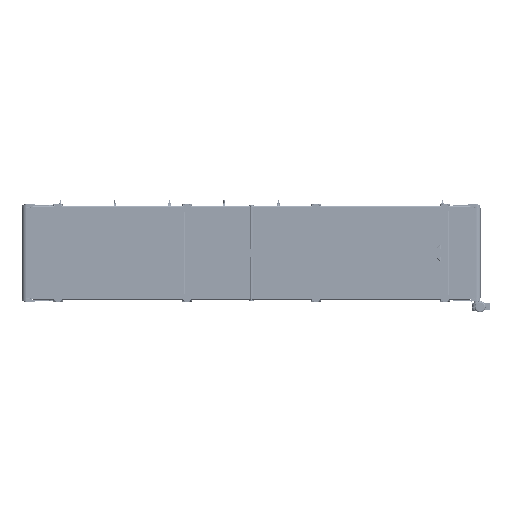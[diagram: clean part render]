
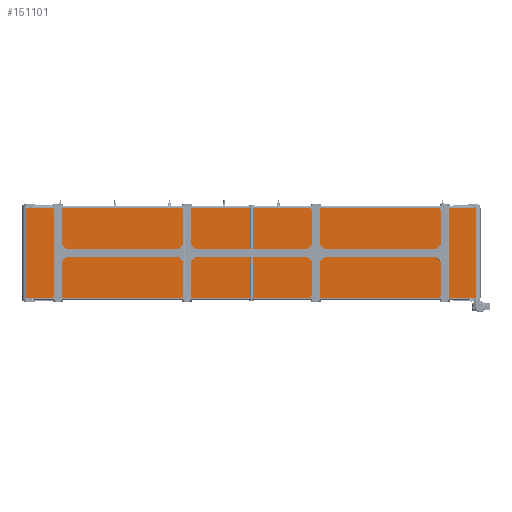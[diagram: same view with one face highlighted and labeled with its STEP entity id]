
A CAD part, front view. The second image highlights one B-rep face of the part: STEP entity #151101.
In plain terms, the highlighted planar face has unit normal (0, -1, 0).
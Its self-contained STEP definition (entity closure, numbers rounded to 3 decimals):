
#11059 = CARTESIAN_POINT ( 'NONE',  ( 2500., -49.5, -500. ) ) ;
#27011 = CARTESIAN_POINT ( 'NONE',  ( -2500., -49.5, 500. ) ) ;
#35018 = LINE ( 'NONE', #292448, #267476 ) ;
#41265 = VECTOR ( 'NONE', #71564, 1000. ) ;
#44678 = VERTEX_POINT ( 'NONE', #64823 ) ;
#51844 = DIRECTION ( 'NONE',  ( 0., 0., 1. ) ) ;
#53388 = FACE_OUTER_BOUND ( 'NONE', #65462, .T. ) ;
#61893 = EDGE_CURVE ( 'NONE', #177287, #68174, #100243, .T. ) ;
#63931 = AXIS2_PLACEMENT_3D ( 'NONE', #27011, #222239, #51844 ) ;
#64823 = CARTESIAN_POINT ( 'NONE',  ( -2500., -49.5, 500. ) ) ;
#65462 = EDGE_LOOP ( 'NONE', ( #211649, #269109, #158025, #199212 ) ) ;
#68174 = VERTEX_POINT ( 'NONE', #11059 ) ;
#71266 = EDGE_CURVE ( 'NONE', #44678, #177287, #35018, .T. ) ;
#71564 = DIRECTION ( 'NONE',  ( 0., 0., -1. ) ) ;
#71896 = DIRECTION ( 'NONE',  ( 1., 0., 0. ) ) ;
#80032 = DIRECTION ( 'NONE',  ( 1., 0., 0. ) ) ;
#100243 = LINE ( 'NONE', #145159, #210476 ) ;
#103232 = VERTEX_POINT ( 'NONE', #267072 ) ;
#140087 = LINE ( 'NONE', #304489, #223597 ) ;
#145159 = CARTESIAN_POINT ( 'NONE',  ( 2500., -49.5, 500. ) ) ;
#151101 = ADVANCED_FACE ( 'NONE', ( #53388 ), #239381, .F. ) ;
#158025 = ORIENTED_EDGE ( 'NONE', *, *, #71266, .F. ) ;
#177287 = VERTEX_POINT ( 'NONE', #186203 ) ;
#186203 = CARTESIAN_POINT ( 'NONE',  ( 2500., -49.5, 500. ) ) ;
#190140 = DIRECTION ( 'NONE',  ( 0., 0., -1. ) ) ;
#199212 = ORIENTED_EDGE ( 'NONE', *, *, #226937, .T. ) ;
#209507 = LINE ( 'NONE', #214125, #41265 ) ;
#210476 = VECTOR ( 'NONE', #190140, 1000. ) ;
#211649 = ORIENTED_EDGE ( 'NONE', *, *, #275967, .T. ) ;
#214125 = CARTESIAN_POINT ( 'NONE',  ( -2500., -49.5, 500. ) ) ;
#222239 = DIRECTION ( 'NONE',  ( 0., 1., 0. ) ) ;
#223597 = VECTOR ( 'NONE', #71896, 1000. ) ;
#226937 = EDGE_CURVE ( 'NONE', #44678, #103232, #209507, .T. ) ;
#239381 = PLANE ( 'NONE',  #63931 ) ;
#267072 = CARTESIAN_POINT ( 'NONE',  ( -2500., -49.5, -500. ) ) ;
#267476 = VECTOR ( 'NONE', #80032, 1000. ) ;
#269109 = ORIENTED_EDGE ( 'NONE', *, *, #61893, .F. ) ;
#275967 = EDGE_CURVE ( 'NONE', #103232, #68174, #140087, .T. ) ;
#292448 = CARTESIAN_POINT ( 'NONE',  ( -2500., -49.5, 500. ) ) ;
#304489 = CARTESIAN_POINT ( 'NONE',  ( -2500., -49.5, -500. ) ) ;
